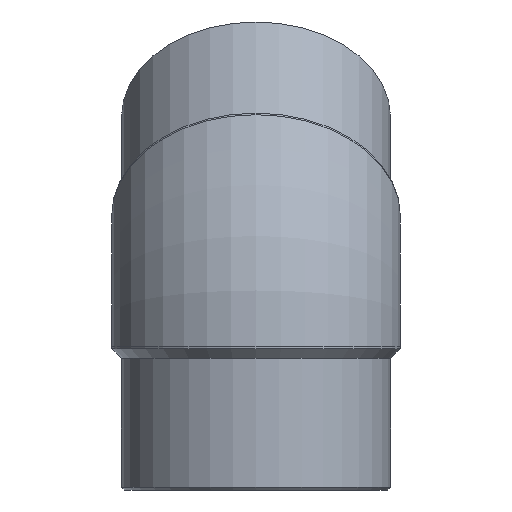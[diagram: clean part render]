
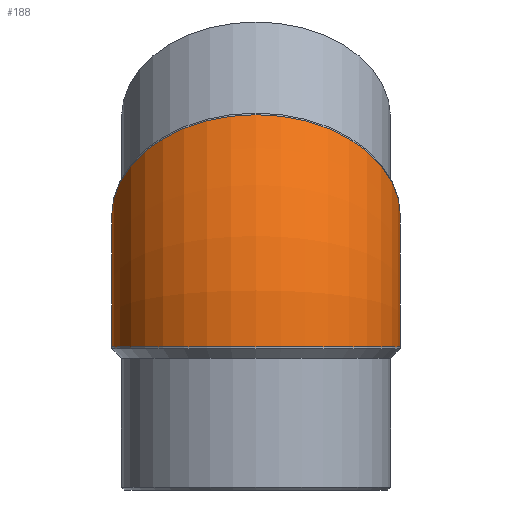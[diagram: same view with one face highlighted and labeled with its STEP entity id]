
A CAD part, left-side view. The second image highlights one B-rep face of the part: STEP entity #188.
In plain terms, the highlighted toroidal (fillet/blend) face has major radius 214.865 mm and minor radius 169 mm.
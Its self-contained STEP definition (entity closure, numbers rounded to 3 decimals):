
#20=TOROIDAL_SURFACE('',#225,214.865,169.);
#53=ORIENTED_EDGE('',*,*,#86,.F.);
#54=ORIENTED_EDGE('',*,*,#87,.T.);
#86=EDGE_CURVE('',#104,#104,#118,.F.);
#87=EDGE_CURVE('',#105,#105,#119,.F.);
#104=VERTEX_POINT('',#349);
#105=VERTEX_POINT('',#352);
#118=CIRCLE('',#224,169.);
#119=CIRCLE('',#226,169.);
#136=EDGE_LOOP('',(#53));
#137=EDGE_LOOP('',(#54));
#163=FACE_BOUND('',#136,.T.);
#164=FACE_BOUND('',#137,.T.);
#188=ADVANCED_FACE('',(#163,#164),#20,.T.);
#224=AXIS2_PLACEMENT_3D('',#348,#270,#271);
#225=AXIS2_PLACEMENT_3D('',#350,#272,#273);
#226=AXIS2_PLACEMENT_3D('',#351,#274,#275);
#270=DIRECTION('',(-0.707,0.,-0.707));
#271=DIRECTION('',(0.707,0.,-0.707));
#272=DIRECTION('',(0.,1.,0.));
#273=DIRECTION('',(0.,0.,1.));
#274=DIRECTION('',(0.,0.,-1.));
#275=DIRECTION('',(1.,0.,0.));
#348=CARTESIAN_POINT('',(62.933,0.,62.933));
#349=CARTESIAN_POINT('',(182.434,0.,-56.569));
#350=CARTESIAN_POINT('',(214.865,0.,-89.));
#351=CARTESIAN_POINT('',(0.,0.,-89.));
#352=CARTESIAN_POINT('',(169.,0.,-89.));
